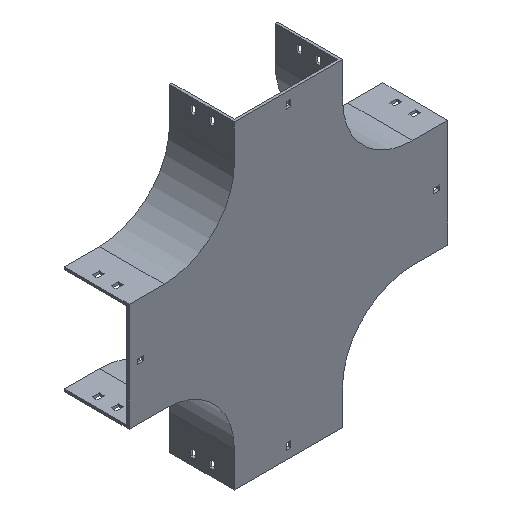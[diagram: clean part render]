
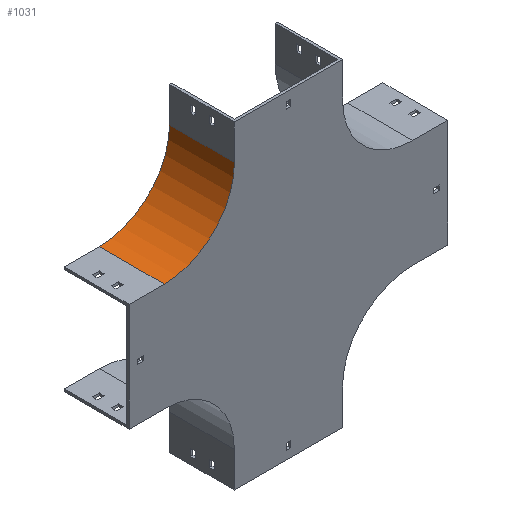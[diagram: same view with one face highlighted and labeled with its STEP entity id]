
A CAD part, isometric view. The second image highlights one B-rep face of the part: STEP entity #1031.
In plain terms, the highlighted cylindrical face has radius 100 mm (diameter 200 mm), a partial arc.
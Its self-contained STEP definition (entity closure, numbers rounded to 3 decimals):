
#8 = CARTESIAN_POINT ( 'NONE',  ( -354., 92.5, -100. ) ) ;
#62 = EDGE_CURVE ( 'NONE', #1740, #3167, #223, .T. ) ;
#216 = CARTESIAN_POINT ( 'NONE',  ( -254., 92.5, 0. ) ) ;
#223 = CIRCLE ( 'NONE', #3199, 100. ) ;
#238 = CARTESIAN_POINT ( 'NONE',  ( -354., 92.5, -100. ) ) ;
#271 = VERTEX_POINT ( 'NONE', #1617 ) ;
#379 = EDGE_CURVE ( 'NONE', #3167, #1726, #1526, .T. ) ;
#487 = EDGE_CURVE ( 'NONE', #1740, #271, #564, .T. ) ;
#548 = DIRECTION ( 'NONE',  ( 0., 0., 1. ) ) ;
#549 = VECTOR ( 'NONE', #640, 1000. ) ;
#564 = LINE ( 'NONE', #238, #1806 ) ;
#609 = AXIS2_PLACEMENT_3D ( 'NONE', #1106, #3103, #1427 ) ;
#640 = DIRECTION ( 'NONE',  ( 0., -1., 0. ) ) ;
#848 = DIRECTION ( 'NONE',  ( 0., -1., 0. ) ) ;
#1031 = ADVANCED_FACE ( 'NONE', ( #1932 ), #3767, .F. ) ;
#1053 = ORIENTED_EDGE ( 'NONE', *, *, #1417, .T. ) ;
#1106 = CARTESIAN_POINT ( 'NONE',  ( -354., 92.5, 0. ) ) ;
#1417 = EDGE_CURVE ( 'NONE', #271, #1726, #3381, .T. ) ;
#1427 = DIRECTION ( 'NONE',  ( 0., 0., -1. ) ) ;
#1431 = CARTESIAN_POINT ( 'NONE',  ( -354., 92.5, 0. ) ) ;
#1434 = ORIENTED_EDGE ( 'NONE', *, *, #487, .T. ) ;
#1526 = LINE ( 'NONE', #1827, #549 ) ;
#1617 = CARTESIAN_POINT ( 'NONE',  ( -354., 0., -100. ) ) ;
#1656 = CARTESIAN_POINT ( 'NONE',  ( -254., 0., 0. ) ) ;
#1726 = VERTEX_POINT ( 'NONE', #1656 ) ;
#1740 = VERTEX_POINT ( 'NONE', #8 ) ;
#1806 = VECTOR ( 'NONE', #3799, 1000. ) ;
#1827 = CARTESIAN_POINT ( 'NONE',  ( -254., 92.5, 0. ) ) ;
#1932 = FACE_OUTER_BOUND ( 'NONE', #2252, .T. ) ;
#2059 = CARTESIAN_POINT ( 'NONE',  ( -354., 0., 0. ) ) ;
#2202 = ORIENTED_EDGE ( 'NONE', *, *, #379, .F. ) ;
#2252 = EDGE_LOOP ( 'NONE', ( #1053, #2202, #3135, #1434 ) ) ;
#2300 = AXIS2_PLACEMENT_3D ( 'NONE', #2059, #848, #3826 ) ;
#3103 = DIRECTION ( 'NONE',  ( 0., -1., 0. ) ) ;
#3135 = ORIENTED_EDGE ( 'NONE', *, *, #62, .F. ) ;
#3167 = VERTEX_POINT ( 'NONE', #216 ) ;
#3193 = DIRECTION ( 'NONE',  ( 0., -1., 0. ) ) ;
#3199 = AXIS2_PLACEMENT_3D ( 'NONE', #1431, #3193, #548 ) ;
#3381 = CIRCLE ( 'NONE', #2300, 100. ) ;
#3767 = CYLINDRICAL_SURFACE ( 'NONE', #609, 100. ) ;
#3799 = DIRECTION ( 'NONE',  ( 0., -1., 0. ) ) ;
#3826 = DIRECTION ( 'NONE',  ( 0., 0., 1. ) ) ;
